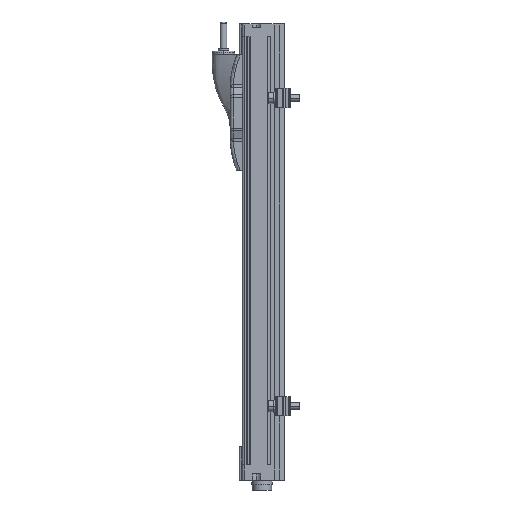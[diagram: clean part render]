
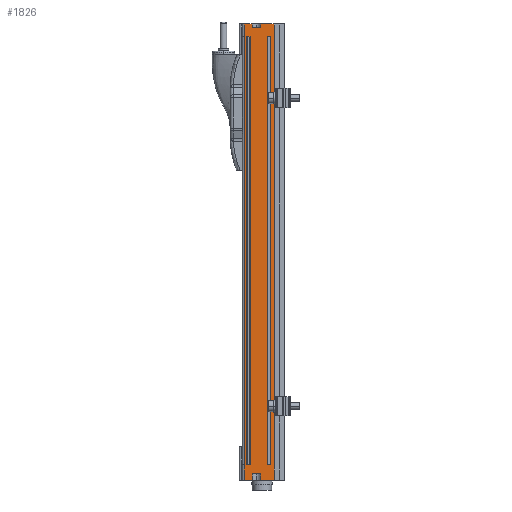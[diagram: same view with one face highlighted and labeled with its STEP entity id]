
A CAD part, left-side view. The second image highlights one B-rep face of the part: STEP entity #1826.
In plain terms, the highlighted planar face has unit normal (-1, 0, 0).
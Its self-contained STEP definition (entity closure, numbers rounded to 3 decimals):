
#1826=ADVANCED_FACE('',(#3728,#3729,#3730),#3731,.F.);
#3728=FACE_OUTER_BOUND('',#7372,.T.);
#3729=FACE_BOUND('',#7373,.T.);
#3730=FACE_BOUND('',#7374,.T.);
#3731=PLANE('',#7375);
#7372=EDGE_LOOP('',(#13006,#13007,#13008,#13009,#13010,#13011,#13012,#13013,#13014,#13015,#13016,#13017,#13018,#13019,#13020,#13021,#13022,#13023));
#7373=EDGE_LOOP('',(#13024,#13025,#13026,#13027));
#7374=EDGE_LOOP('',(#13028,#13029,#13030,#13031));
#7375=AXIS2_PLACEMENT_3D('',#13032,#13033,#13034);
#13006=ORIENTED_EDGE('',*,*,#15007,.T.);
#13007=ORIENTED_EDGE('',*,*,#15630,.F.);
#13008=ORIENTED_EDGE('',*,*,#15550,.F.);
#13009=ORIENTED_EDGE('',*,*,#15435,.T.);
#13010=ORIENTED_EDGE('',*,*,#15382,.F.);
#13011=ORIENTED_EDGE('',*,*,#15534,.F.);
#13012=ORIENTED_EDGE('',*,*,#15531,.F.);
#13013=ORIENTED_EDGE('',*,*,#15536,.T.);
#13014=ORIENTED_EDGE('',*,*,#15379,.F.);
#13015=ORIENTED_EDGE('',*,*,#15441,.F.);
#13016=ORIENTED_EDGE('',*,*,#15614,.T.);
#13017=ORIENTED_EDGE('',*,*,#14876,.T.);
#13018=ORIENTED_EDGE('',*,*,#14800,.F.);
#13019=ORIENTED_EDGE('',*,*,#14966,.F.);
#13020=ORIENTED_EDGE('',*,*,#14961,.T.);
#13021=ORIENTED_EDGE('',*,*,#14968,.T.);
#13022=ORIENTED_EDGE('',*,*,#14796,.F.);
#13023=ORIENTED_EDGE('',*,*,#14882,.F.);
#13024=ORIENTED_EDGE('',*,*,#14714,.T.);
#13025=ORIENTED_EDGE('',*,*,#15624,.F.);
#13026=ORIENTED_EDGE('',*,*,#15330,.F.);
#13027=ORIENTED_EDGE('',*,*,#15628,.T.);
#13028=ORIENTED_EDGE('',*,*,#14699,.T.);
#13029=ORIENTED_EDGE('',*,*,#15617,.F.);
#13030=ORIENTED_EDGE('',*,*,#15325,.F.);
#13031=ORIENTED_EDGE('',*,*,#15621,.T.);
#13032=CARTESIAN_POINT('',(0.,-22.785,231.0));
#13033=DIRECTION('',(1.0,0.0,0.0));
#13034=DIRECTION('',(0.0,1.0,-0.0));
#14699=EDGE_CURVE('',#17737,#17741,#17743,.T.);
#14714=EDGE_CURVE('',#17764,#17768,#17770,.T.);
#14796=EDGE_CURVE('',#17901,#17903,#17904,.T.);
#14800=EDGE_CURVE('',#17908,#17910,#17911,.T.);
#14876=EDGE_CURVE('',#18035,#17910,#18036,.T.);
#14882=EDGE_CURVE('',#18043,#17901,#18045,.T.);
#14961=EDGE_CURVE('',#18148,#18146,#18149,.T.);
#14966=EDGE_CURVE('',#18148,#17908,#18154,.T.);
#14968=EDGE_CURVE('',#18146,#17903,#18156,.T.);
#15007=EDGE_CURVE('',#18043,#18205,#18207,.T.);
#15325=EDGE_CURVE('',#18651,#18654,#18655,.T.);
#15330=EDGE_CURVE('',#18660,#18663,#18664,.T.);
#15379=EDGE_CURVE('',#18743,#18745,#18746,.T.);
#15382=EDGE_CURVE('',#18748,#18750,#18751,.T.);
#15435=EDGE_CURVE('',#18842,#18750,#18843,.T.);
#15441=EDGE_CURVE('',#18850,#18743,#18852,.T.);
#15531=EDGE_CURVE('',#18968,#18970,#18971,.T.);
#15534=EDGE_CURVE('',#18970,#18748,#18974,.T.);
#15536=EDGE_CURVE('',#18968,#18745,#18976,.T.);
#15550=EDGE_CURVE('',#18842,#18994,#18995,.T.);
#15614=EDGE_CURVE('',#18850,#18035,#19075,.T.);
#15617=EDGE_CURVE('',#18654,#17741,#19078,.T.);
#15621=EDGE_CURVE('',#18651,#17737,#19082,.T.);
#15624=EDGE_CURVE('',#18663,#17768,#19085,.T.);
#15628=EDGE_CURVE('',#18660,#17764,#19089,.T.);
#15630=EDGE_CURVE('',#18994,#18205,#19091,.T.);
#17737=VERTEX_POINT('',#22069);
#17741=VERTEX_POINT('',#22075);
#17743=LINE('',#22078,#22079);
#17764=VERTEX_POINT('',#22108);
#17768=VERTEX_POINT('',#22114);
#17770=LINE('',#22117,#22118);
#17901=VERTEX_POINT('',#22303);
#17903=VERTEX_POINT('',#22306);
#17904=LINE('',#22307,#22308);
#17908=VERTEX_POINT('',#22313);
#17910=VERTEX_POINT('',#22316);
#17911=LINE('',#22317,#22318);
#18035=VERTEX_POINT('',#22497);
#18036=LINE('',#22498,#22499);
#18043=VERTEX_POINT('',#22508);
#18045=LINE('',#22511,#22512);
#18146=VERTEX_POINT('',#22659);
#18148=VERTEX_POINT('',#22662);
#18149=LINE('',#22663,#22664);
#18154=LINE('',#22671,#22672);
#18156=LINE('',#22674,#22675);
#18205=VERTEX_POINT('',#22747);
#18207=LINE('',#22750,#22751);
#18651=VERTEX_POINT('',#23827);
#18654=VERTEX_POINT('',#23831);
#18655=LINE('',#23832,#23833);
#18660=VERTEX_POINT('',#23840);
#18663=VERTEX_POINT('',#23844);
#18664=LINE('',#23845,#23846);
#18743=VERTEX_POINT('',#23955);
#18745=VERTEX_POINT('',#23957);
#18746=LINE('',#23958,#23959);
#18748=VERTEX_POINT('',#23962);
#18750=VERTEX_POINT('',#23965);
#18751=LINE('',#23966,#23967);
#18842=VERTEX_POINT('',#24102);
#18843=LINE('',#24103,#24104);
#18850=VERTEX_POINT('',#24114);
#18852=LINE('',#24116,#24117);
#18968=VERTEX_POINT('',#24287);
#18970=VERTEX_POINT('',#24290);
#18971=LINE('',#24291,#24292);
#18974=LINE('',#24296,#24297);
#18976=LINE('',#24299,#24300);
#18994=VERTEX_POINT('',#24325);
#18995=LINE('',#24326,#24327);
#19075=LINE('',#24444,#24445);
#19078=LINE('',#24449,#24450);
#19082=LINE('',#24455,#24456);
#19085=LINE('',#24460,#24461);
#19089=LINE('',#24466,#24467);
#19091=LINE('',#24469,#24470);
#22069=CARTESIAN_POINT('',(0.,26.7,-101.0));
#22075=CARTESIAN_POINT('',(0.,29.3,-101.0));
#22078=CARTESIAN_POINT('',(0.,26.7,-101.0));
#22079=VECTOR('',#26378,2.6);
#22108=CARTESIAN_POINT('',(0.,10.9,-101.0));
#22114=CARTESIAN_POINT('',(0.,13.5,-101.0));
#22117=CARTESIAN_POINT('',(0.,10.9,-101.0));
#22118=VECTOR('',#26390,2.6);
#22303=CARTESIAN_POINT('',(0.,8.1,-113.0));
#22306=CARTESIAN_POINT('',(0.,18.6,-113.0));
#22307=CARTESIAN_POINT('',(0.,8.1,-113.0));
#22308=VECTOR('',#26482,10.5);
#22313=CARTESIAN_POINT('',(0.,25.1,-113.0));
#22316=CARTESIAN_POINT('',(0.,31.1,-113.0));
#22317=CARTESIAN_POINT('',(0.,25.1,-113.0));
#22318=VECTOR('',#26488,6.);
#22497=CARTESIAN_POINT('',(0.,31.1,-101.0));
#22498=CARTESIAN_POINT('',(0.,31.1,-101.0));
#22499=VECTOR('',#26571,12.0);
#22508=CARTESIAN_POINT('',(0.,8.1,-101.0));
#22511=CARTESIAN_POINT('',(0.,8.1,-101.0));
#22512=VECTOR('',#26578,12.0);
#22659=CARTESIAN_POINT('',(0.,18.6,-108.0));
#22662=CARTESIAN_POINT('',(0.,25.1,-108.0));
#22663=CARTESIAN_POINT('',(0.,25.1,-108.0));
#22664=VECTOR('',#26635,6.5);
#22671=CARTESIAN_POINT('',(0.,25.1,-108.0));
#22672=VECTOR('',#26638,5.0);
#22674=CARTESIAN_POINT('',(0.,18.6,-108.0));
#22675=VECTOR('',#26639,5.0);
#22747=CARTESIAN_POINT('',(0.,8.,-101.0));
#22750=CARTESIAN_POINT('',(0.,8.1,-101.0));
#22751=VECTOR('',#26667,0.1);
#23827=CARTESIAN_POINT('',(0.,26.7,231.0));
#23831=CARTESIAN_POINT('',(0.,29.3,231.0));
#23832=CARTESIAN_POINT('',(0.,26.7,231.0));
#23833=VECTOR('',#27012,2.6);
#23840=CARTESIAN_POINT('',(0.,10.9,231.0));
#23844=CARTESIAN_POINT('',(0.,13.5,231.0));
#23845=CARTESIAN_POINT('',(0.,10.9,231.0));
#23846=VECTOR('',#27016,2.6);
#23955=CARTESIAN_POINT('',(0.,31.1,241.0));
#23957=CARTESIAN_POINT('',(0.,25.1,241.0));
#23958=CARTESIAN_POINT('',(0.,31.1,241.0));
#23959=VECTOR('',#27077,6.0);
#23962=CARTESIAN_POINT('',(0.,18.6,241.0));
#23965=CARTESIAN_POINT('',(0.,8.1,241.0));
#23966=CARTESIAN_POINT('',(0.,18.6,241.0));
#23967=VECTOR('',#27080,10.5);
#24102=CARTESIAN_POINT('',(0.,8.1,231.0));
#24103=CARTESIAN_POINT('',(0.,8.1,231.0));
#24104=VECTOR('',#27131,10.0);
#24114=CARTESIAN_POINT('',(0.,31.1,231.0));
#24116=CARTESIAN_POINT('',(0.,31.1,231.0));
#24117=VECTOR('',#27138,10.0);
#24287=CARTESIAN_POINT('',(0.,25.1,238.0));
#24290=CARTESIAN_POINT('',(0.,18.6,238.0));
#24291=CARTESIAN_POINT('',(0.,25.1,238.0));
#24292=VECTOR('',#27203,6.5);
#24296=CARTESIAN_POINT('',(0.,18.6,238.0));
#24297=VECTOR('',#27205,3.0);
#24299=CARTESIAN_POINT('',(0.,25.1,238.0));
#24300=VECTOR('',#27206,3.0);
#24325=CARTESIAN_POINT('',(0.,8.,231.0));
#24326=CARTESIAN_POINT('',(0.,8.1,231.0));
#24327=VECTOR('',#27217,0.1);
#24444=CARTESIAN_POINT('',(0.,31.1,231.0));
#24445=VECTOR('',#27261,332.0);
#24449=CARTESIAN_POINT('',(0.,29.3,231.0));
#24450=VECTOR('',#27263,332.0);
#24455=CARTESIAN_POINT('',(0.,26.7,231.0));
#24456=VECTOR('',#27265,332.0);
#24460=CARTESIAN_POINT('',(0.,13.5,231.0));
#24461=VECTOR('',#27267,332.0);
#24466=CARTESIAN_POINT('',(0.,10.9,231.0));
#24467=VECTOR('',#27269,332.0);
#24469=CARTESIAN_POINT('',(0.,8.,231.0));
#24470=VECTOR('',#27270,332.0);
#26378=DIRECTION('',(0.0,1.0,0.0));
#26390=DIRECTION('',(0.0,1.0,0.0));
#26482=DIRECTION('',(0.0,1.0,0.0));
#26488=DIRECTION('',(0.0,1.0,0.0));
#26571=DIRECTION('',(0.0,0.0,-1.0));
#26578=DIRECTION('',(0.0,0.0,-1.0));
#26635=DIRECTION('',(0.0,-1.0,0.0));
#26638=DIRECTION('',(0.0,0.0,-1.0));
#26639=DIRECTION('',(0.0,0.0,-1.0));
#26667=DIRECTION('',(0.0,-1.0,0.0));
#27012=DIRECTION('',(0.0,1.0,0.0));
#27016=DIRECTION('',(0.0,1.0,0.0));
#27077=DIRECTION('',(0.0,-1.0,0.0));
#27080=DIRECTION('',(0.0,-1.0,0.0));
#27131=DIRECTION('',(0.0,0.0,1.0));
#27138=DIRECTION('',(0.0,0.0,1.0));
#27203=DIRECTION('',(0.0,-1.0,0.0));
#27205=DIRECTION('',(0.0,0.0,1.0));
#27206=DIRECTION('',(0.0,0.0,1.0));
#27217=DIRECTION('',(0.0,-1.0,0.0));
#27261=DIRECTION('',(0.0,0.0,-1.0));
#27263=DIRECTION('',(0.0,0.0,-1.0));
#27265=DIRECTION('',(0.0,0.0,-1.0));
#27267=DIRECTION('',(0.0,0.0,-1.0));
#27269=DIRECTION('',(0.0,0.0,-1.0));
#27270=DIRECTION('',(0.0,0.0,-1.0));
